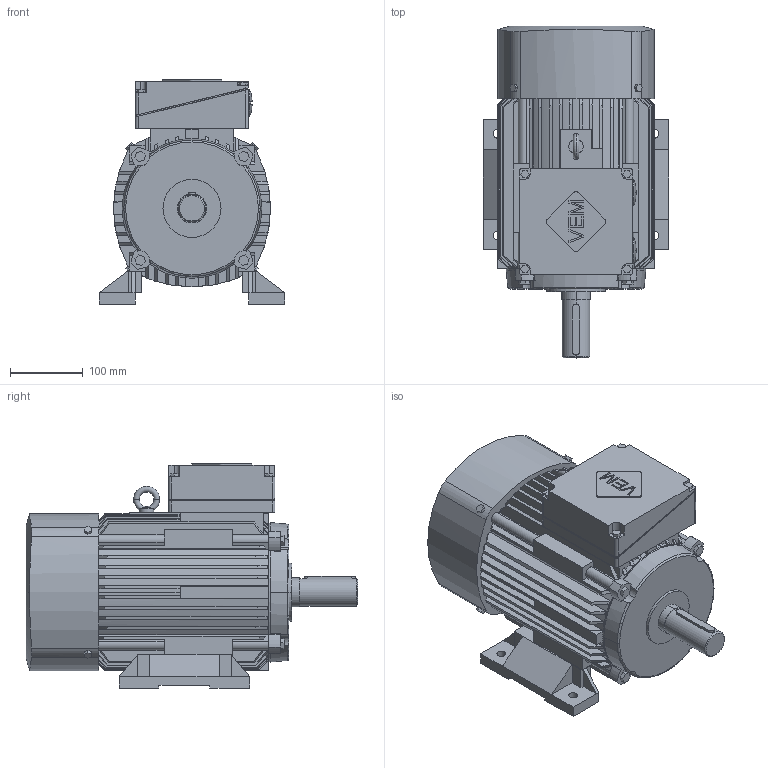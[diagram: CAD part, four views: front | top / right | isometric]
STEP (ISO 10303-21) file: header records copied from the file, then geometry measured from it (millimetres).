
FILE_DESCRIPTION(('no description'),'unknown implementation level');
FILE_NAME('t52d30405632c40fc9cd041049a487871.stp',' ',('VEM motors GmbH'),('CADClick - KiM GmbH - www.kimweb.de'),'unknown preprocess','ACIS','unknown authorization');
FILE_SCHEMA(('automotive_design'));
Length unit declared in the file: millimetre
Products named in the file (5): 1; 2; 3; 4; 5
Bounding box: 256 x 457 x 309 mm (x, y, z)
Volume: 14689996 mm3; surface area: 719586.3 mm2
Topology: 5 solids, 5 shells, 656 faces, 1840 edges, 1214 vertices
Faces by surface type: plane 402, cylinder 144, cone 92, torus 14, bspline 4
Entity records: 44208 total; most frequent: CARTESIAN_POINT 7099, STYLED_ITEM 3715, PRESENTATION_STYLE_ASSIGNMENT 3715, COLOUR_RGB 3715, ORIENTED_EDGE 3680, DIRECTION 3220, EDGE_CURVE 1840, CURVE_STYLE 1840
